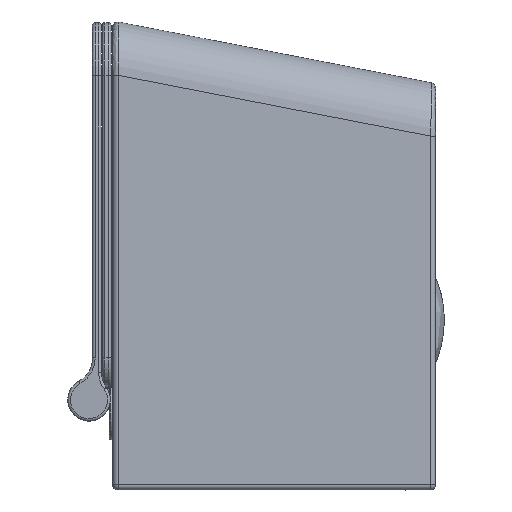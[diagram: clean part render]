
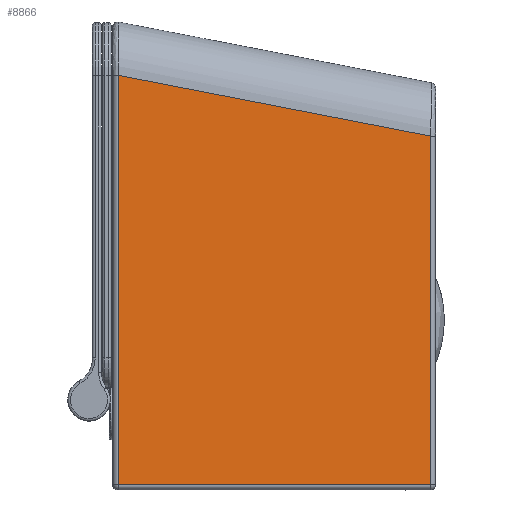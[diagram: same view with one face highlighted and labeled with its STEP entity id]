
A CAD part, left-side view. The second image highlights one B-rep face of the part: STEP entity #8866.
In plain terms, the highlighted planar face has unit normal (-0.998, -0.07, 0).
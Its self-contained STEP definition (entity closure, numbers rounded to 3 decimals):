
#826=LINE('',#38053,#1306);
#827=LINE('',#38058,#1307);
#828=LINE('',#38059,#1308);
#829=LINE('',#38060,#1309);
#1306=VECTOR('',#11808,393.827);
#1307=VECTOR('',#11813,462.443);
#1308=VECTOR('',#11814,353.862);
#1309=VECTOR('',#11815,360.453);
#2075=FACE_OUTER_BOUND('',#2661,.T.);
#2661=EDGE_LOOP('',(#7407,#7408,#7409,#7410));
#4028=VERTEX_POINT('',#37904);
#4029=VERTEX_POINT('',#38052);
#4030=VERTEX_POINT('',#38056);
#4031=VERTEX_POINT('',#38057);
#5185=EDGE_CURVE('',#4028,#4029,#826,.T.);
#5187=EDGE_CURVE('',#4030,#4031,#827,.T.);
#5188=EDGE_CURVE('',#4030,#4029,#828,.T.);
#5189=EDGE_CURVE('',#4031,#4028,#829,.T.);
#7407=ORIENTED_EDGE('',*,*,#5187,.F.);
#7408=ORIENTED_EDGE('',*,*,#5188,.T.);
#7409=ORIENTED_EDGE('',*,*,#5185,.F.);
#7410=ORIENTED_EDGE('',*,*,#5189,.F.);
#8464=PLANE('',#9752);
#8866=ADVANCED_FACE('',(#2075),#8464,.T.);
#9752=AXIS2_PLACEMENT_3D('',#38055,#11811,#11812);
#11808=DIRECTION('',(0.,0.,-1.));
#11811=DIRECTION('center_axis',(-0.998,-0.07,
0.));
#11812=DIRECTION('ref_axis',(0.,0.,1.));
#11813=DIRECTION('',(0.,0.,1.));
#11814=DIRECTION('',(0.07,-0.998,0.));
#11815=DIRECTION('',(0.068,-0.979,-0.19));
#37904=CARTESIAN_POINT('',(-62.467,28.181,166.18));
#38052=CARTESIAN_POINT('',(-62.467,28.181,-227.647));
#38053=CARTESIAN_POINT('',(-62.467,28.181,166.18));
#38055=CARTESIAN_POINT('Origin',(-87.6,387.6,-243.472));
#38056=CARTESIAN_POINT('',(-87.151,381.181,-227.647));
#38057=CARTESIAN_POINT('',(-87.151,381.181,234.796));
#38058=CARTESIAN_POINT('',(-87.151,381.181,-227.647));
#38059=CARTESIAN_POINT('',(-87.151,381.181,-227.647));
#38060=CARTESIAN_POINT('',(-87.151,381.181,234.796));
